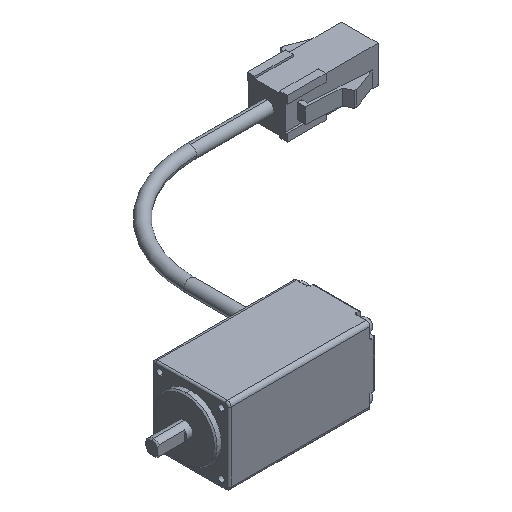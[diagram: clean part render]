
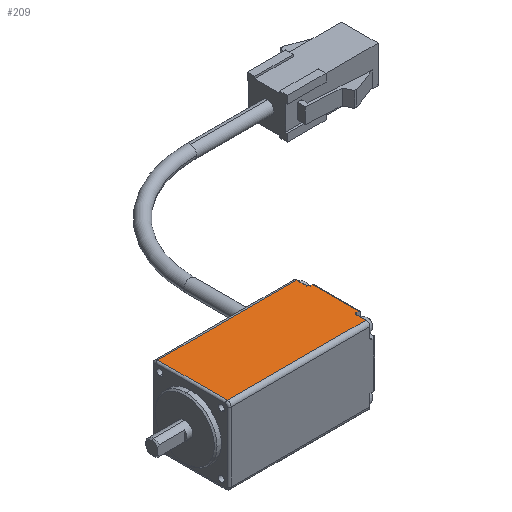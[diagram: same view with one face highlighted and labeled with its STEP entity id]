
A CAD part, isometric view. The second image highlights one B-rep face of the part: STEP entity #209.
In plain terms, the highlighted planar face has unit normal (0, 0, 1) as drawn and (0, 0, -1) by its records, which use the part's own axes.
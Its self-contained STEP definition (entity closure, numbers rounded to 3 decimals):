
#209 = ADVANCED_FACE ( 'NONE', ( #3650 ), #8699, .T. ) ;
#398 = ORIENTED_EDGE ( 'NONE', *, *, #1113, .F. ) ;
#425 = LINE ( 'NONE', #3769, #7497 ) ;
#627 = VECTOR ( 'NONE', #4774, 1000. ) ;
#714 = DIRECTION ( 'NONE',  ( 1., 0., 0. ) ) ;
#742 = VECTOR ( 'NONE', #6486, 1000. ) ;
#747 = VECTOR ( 'NONE', #3919, 1000. ) ;
#821 = CARTESIAN_POINT ( 'NONE',  ( 39., 16., 0. ) ) ;
#862 = VERTEX_POINT ( 'NONE', #8417 ) ;
#880 = CARTESIAN_POINT ( 'NONE',  ( 1.5, 1., 0. ) ) ;
#1036 = DIRECTION ( 'NONE',  ( 0., -1., 0. ) ) ;
#1054 = VERTEX_POINT ( 'NONE', #6599 ) ;
#1113 = EDGE_CURVE ( 'NONE', #7236, #1054, #2983, .T. ) ;
#1147 = CARTESIAN_POINT ( 'NONE',  ( 37.5, 3.5, 0. ) ) ;
#1276 = LINE ( 'NONE', #4641, #3102 ) ;
#1371 = CARTESIAN_POINT ( 'NONE',  ( 1.5, 1., 0. ) ) ;
#1391 = CARTESIAN_POINT ( 'NONE',  ( 38.5, 19., 0. ) ) ;
#1399 = CARTESIAN_POINT ( 'NONE',  ( 37.5, 1., 0. ) ) ;
#1404 = EDGE_CURVE ( 'NONE', #2872, #1054, #425, .T. ) ;
#1526 = ORIENTED_EDGE ( 'NONE', *, *, #8426, .T. ) ;
#1804 = EDGE_CURVE ( 'NONE', #7905, #5757, #6076, .T. ) ;
#1807 = ORIENTED_EDGE ( 'NONE', *, *, #6186, .T. ) ;
#1844 = DIRECTION ( 'NONE',  ( -1., 0., 0. ) ) ;
#2034 = ORIENTED_EDGE ( 'NONE', *, *, #1804, .T. ) ;
#2505 = AXIS2_PLACEMENT_3D ( 'NONE', #7325, #3188, #7988 ) ;
#2552 = EDGE_CURVE ( 'NONE', #862, #2710, #4137, .T. ) ;
#2555 = LINE ( 'NONE', #1399, #742 ) ;
#2705 = ORIENTED_EDGE ( 'NONE', *, *, #7845, .F. ) ;
#2710 = VERTEX_POINT ( 'NONE', #5375 ) ;
#2734 = EDGE_CURVE ( 'NONE', #4304, #7905, #7893, .T. ) ;
#2872 = VERTEX_POINT ( 'NONE', #6018 ) ;
#2983 = LINE ( 'NONE', #3202, #747 ) ;
#3102 = VECTOR ( 'NONE', #3266, 1000. ) ;
#3164 = CARTESIAN_POINT ( 'NONE',  ( 38., 16.5, 0. ) ) ;
#3188 = DIRECTION ( 'NONE',  ( 0., 0., 1. ) ) ;
#3202 = CARTESIAN_POINT ( 'NONE',  ( 38., 4., 0. ) ) ;
#3266 = DIRECTION ( 'NONE',  ( 0., -1., 0. ) ) ;
#3378 = CIRCLE ( 'NONE', #2505, 0.5 ) ;
#3650 = FACE_OUTER_BOUND ( 'NONE', #7137, .T. ) ;
#3769 = CARTESIAN_POINT ( 'NONE',  ( 38.5, 1., 0. ) ) ;
#3826 = AXIS2_PLACEMENT_3D ( 'NONE', #6633, #5962, #1844 ) ;
#3853 = ORIENTED_EDGE ( 'NONE', *, *, #4846, .T. ) ;
#3863 = DIRECTION ( 'NONE',  ( 1., 0., 0. ) ) ;
#3919 = DIRECTION ( 'NONE',  ( 1., 0., 0. ) ) ;
#4030 = CARTESIAN_POINT ( 'NONE',  ( 38., 4., 0. ) ) ;
#4032 = DIRECTION ( 'NONE',  ( -1., 0., 0. ) ) ;
#4137 = CIRCLE ( 'NONE', #6414, 0.5 ) ;
#4304 = VERTEX_POINT ( 'NONE', #8146 ) ;
#4641 = CARTESIAN_POINT ( 'NONE',  ( 37.5, 1., 0. ) ) ;
#4774 = DIRECTION ( 'NONE',  ( 0., 1., 0. ) ) ;
#4844 = ORIENTED_EDGE ( 'NONE', *, *, #1404, .T. ) ;
#4846 = EDGE_CURVE ( 'NONE', #6659, #4304, #2555, .T. ) ;
#5207 = ORIENTED_EDGE ( 'NONE', *, *, #2734, .T. ) ;
#5375 = CARTESIAN_POINT ( 'NONE',  ( 38., 16., 0. ) ) ;
#5757 = VERTEX_POINT ( 'NONE', #7217 ) ;
#5794 = VECTOR ( 'NONE', #6977, 1000. ) ;
#5962 = DIRECTION ( 'NONE',  ( 0., 0., -1. ) ) ;
#6010 = LINE ( 'NONE', #821, #5794 ) ;
#6018 = CARTESIAN_POINT ( 'NONE',  ( 38.5, 16., 0. ) ) ;
#6076 = LINE ( 'NONE', #1371, #627 ) ;
#6186 = EDGE_CURVE ( 'NONE', #7236, #6659, #3378, .T. ) ;
#6277 = VECTOR ( 'NONE', #4032, 1000. ) ;
#6414 = AXIS2_PLACEMENT_3D ( 'NONE', #3164, #7963, #3863 ) ;
#6425 = EDGE_CURVE ( 'NONE', #5757, #8289, #6933, .T. ) ;
#6486 = DIRECTION ( 'NONE',  ( 0., -1., 0. ) ) ;
#6552 = CARTESIAN_POINT ( 'NONE',  ( 37.5, 19., 0. ) ) ;
#6599 = CARTESIAN_POINT ( 'NONE',  ( 38.5, 4., 0. ) ) ;
#6633 = CARTESIAN_POINT ( 'NONE',  ( 38.5, 1., 0. ) ) ;
#6659 = VERTEX_POINT ( 'NONE', #1147 ) ;
#6703 = ORIENTED_EDGE ( 'NONE', *, *, #2552, .T. ) ;
#6710 = VECTOR ( 'NONE', #714, 1000. ) ;
#6933 = LINE ( 'NONE', #1391, #6710 ) ;
#6977 = DIRECTION ( 'NONE',  ( -1., 0., 0. ) ) ;
#7137 = EDGE_LOOP ( 'NONE', ( #5207, #2034, #8056, #1526, #6703, #2705, #4844, #398, #1807, #3853 ) ) ;
#7217 = CARTESIAN_POINT ( 'NONE',  ( 1.5, 19., 0. ) ) ;
#7236 = VERTEX_POINT ( 'NONE', #4030 ) ;
#7325 = CARTESIAN_POINT ( 'NONE',  ( 38., 3.5, 0. ) ) ;
#7497 = VECTOR ( 'NONE', #1036, 1000. ) ;
#7845 = EDGE_CURVE ( 'NONE', #2872, #2710, #6010, .T. ) ;
#7893 = LINE ( 'NONE', #8835, #6277 ) ;
#7905 = VERTEX_POINT ( 'NONE', #880 ) ;
#7963 = DIRECTION ( 'NONE',  ( 0., 0., 1. ) ) ;
#7988 = DIRECTION ( 'NONE',  ( 1., 0., 0. ) ) ;
#8056 = ORIENTED_EDGE ( 'NONE', *, *, #6425, .T. ) ;
#8146 = CARTESIAN_POINT ( 'NONE',  ( 37.5, 1., 0. ) ) ;
#8289 = VERTEX_POINT ( 'NONE', #6552 ) ;
#8417 = CARTESIAN_POINT ( 'NONE',  ( 37.5, 16.5, 0. ) ) ;
#8426 = EDGE_CURVE ( 'NONE', #8289, #862, #1276, .T. ) ;
#8699 = PLANE ( 'NONE',  #3826 ) ;
#8835 = CARTESIAN_POINT ( 'NONE',  ( 38.5, 1., 0. ) ) ;
